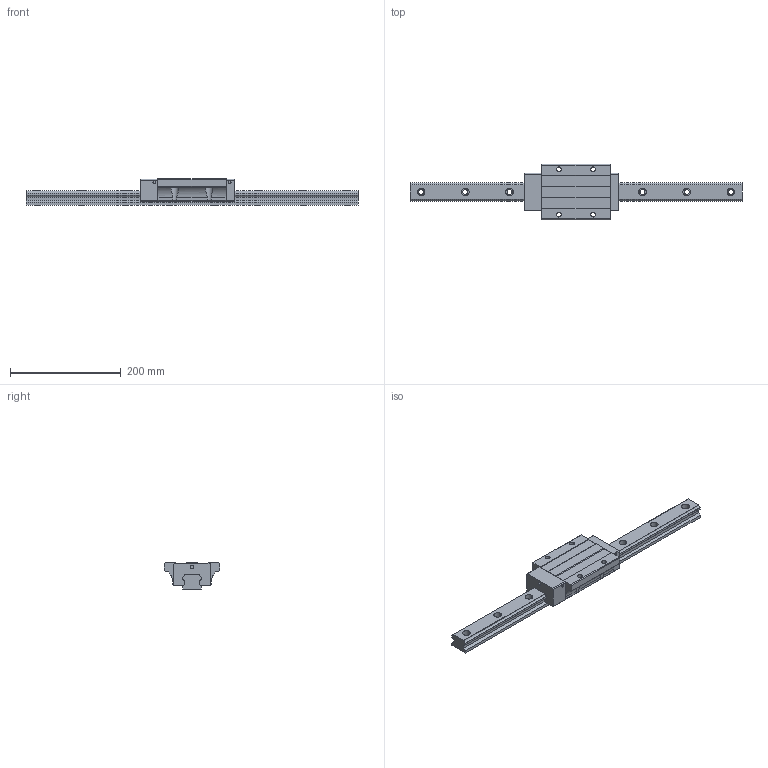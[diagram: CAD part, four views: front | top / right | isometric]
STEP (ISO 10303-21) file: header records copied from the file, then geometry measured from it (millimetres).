
FILE_DESCRIPTION (( 'STEP AP203' ), '1' );
FILE_NAME ('TRH35FE-BN.STEP', '2024-06-26T07:55:40', ( '' ), ( '' ), 'SwSTEP 2.0', 'SolidWorks 2022', '' );
FILE_SCHEMA (( 'CONFIG_CONTROL_DESIGN' ));
Length unit declared in the file: millimetre
Products named in the file (1): TRH35FE-BN
Bounding box: 600 x 100 x 48 mm (x, y, z)
Volume: 868649.9 mm3; surface area: 140752.4 mm2
Topology: 2 solids, 2 shells, 212 faces, 580 edges, 386 vertices
Faces by surface type: cylinder 112, plane 100
Entity records: 7449 total; most frequent: CARTESIAN_POINT 1801, DIRECTION 1174, ORIENTED_EDGE 1160, EDGE_CURVE 580, AXIS2_PLACEMENT_3D 409, VERTEX_POINT 386, LINE 356, VECTOR 356
